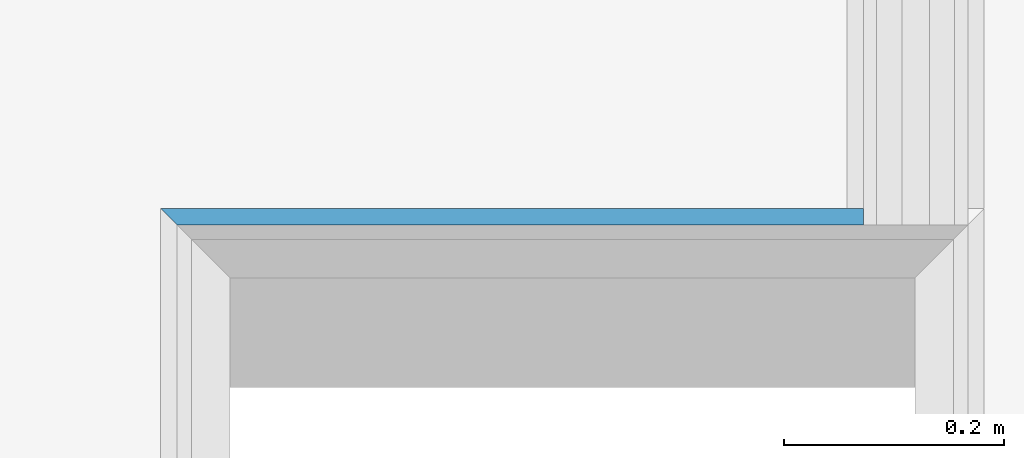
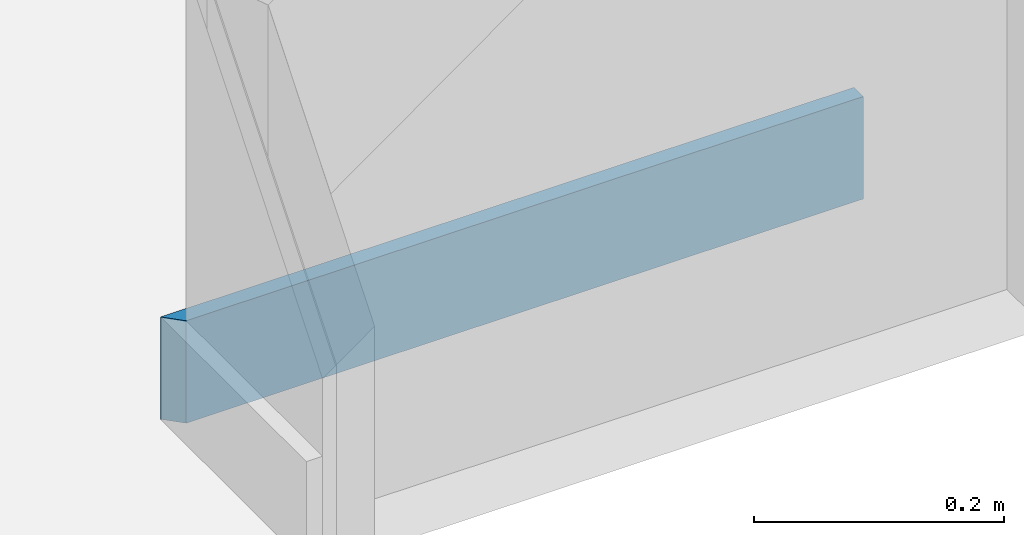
# One storey, part 6 of 82: 1 wall.
"""IFC2X3 building model written with IfcOpenShell, lengths in metres."""

from ifc_helpers import new_model, entity, si_unit, converted_unit, derived_unit, money_unit, direction, frame, origin_with_axes, place, context, subcontext, project, spatial, polyline, outline, extrude, material, layer, layer_set, layer_usage, type_object, element, save


model = new_model("IFC2X3")

# Units and contexts
model_context = context("Model", 3, precision=1e-05, world=origin_with_axes(), true_north=direction((0.0, 1.0)))
body_context = subcontext(model_context, "Body", "Model", "MODEL_VIEW", scale=1.0)
ifc_project = project(units=[si_unit("LENGTHUNIT", "METRE"), si_unit("AREAUNIT", "SQUARE_METRE"), si_unit("VOLUMEUNIT", "CUBIC_METRE"), si_unit("ABSORBEDDOSEUNIT", "GRAY"), si_unit("AMOUNTOFSUBSTANCEUNIT", "MOLE"), si_unit("DOSEEQUIVALENTUNIT", "SIEVERT"), si_unit("ELECTRICCAPACITANCEUNIT", "FARAD"), si_unit("ELECTRICCHARGEUNIT", "COULOMB"), si_unit("ELECTRICCONDUCTANCEUNIT", "SIEMENS"), si_unit("ELECTRICCURRENTUNIT", "AMPERE"), si_unit("ELECTRICRESISTANCEUNIT", "OHM"), si_unit("ELECTRICVOLTAGEUNIT", "VOLT"), si_unit("ENERGYUNIT", "JOULE"), si_unit("FORCEUNIT", "NEWTON"), si_unit("FREQUENCYUNIT", "HERTZ"), si_unit("ILLUMINANCEUNIT", "LUX"), si_unit("INDUCTANCEUNIT", "HENRY"), si_unit("LUMINOUSFLUXUNIT", "LUMEN"), si_unit("LUMINOUSINTENSITYUNIT", "CANDELA"), si_unit("MAGNETICFLUXDENSITYUNIT", "TESLA"), si_unit("MAGNETICFLUXUNIT", "WEBER"), si_unit("MASSUNIT", "GRAM"), converted_unit("PLANEANGLEUNIT", "degree", entity("IfcReal", 0.0174532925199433), si_unit("PLANEANGLEUNIT", "RADIAN"), dimensions=[0, 0, 0, 0, 0, 0, 0]), si_unit("POWERUNIT", "WATT"), si_unit("PRESSUREUNIT", "PASCAL"), si_unit("RADIOACTIVITYUNIT", "BECQUEREL"), si_unit("SOLIDANGLEUNIT", "STERADIAN"), si_unit("THERMODYNAMICTEMPERATUREUNIT", "KELVIN"), si_unit("TIMEUNIT", "SECOND"), derived_unit("ACCELERATIONUNIT", [(si_unit("LENGTHUNIT", "METRE"), 1), (si_unit("TIMEUNIT", "SECOND"), -2)]), derived_unit("ANGULARVELOCITYUNIT", [(converted_unit("PLANEANGLEUNIT", "degree", entity("IfcReal", 0.0174532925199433), si_unit("PLANEANGLEUNIT", "RADIAN"), dimensions=[0, 0, 0, 0, 0, 0, 0]), 1), (si_unit("TIMEUNIT", "SECOND"), -1)]), derived_unit("CURVATUREUNIT", [(converted_unit("PLANEANGLEUNIT", "degree", entity("IfcReal", 0.0174532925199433), si_unit("PLANEANGLEUNIT", "RADIAN"), dimensions=[0, 0, 0, 0, 0, 0, 0]), 1), (si_unit("LENGTHUNIT", "METRE"), -1)]), derived_unit("DYNAMICVISCOSITYUNIT", [(si_unit("PRESSUREUNIT", "PASCAL"), 1), (si_unit("TIMEUNIT", "SECOND"), 1)]), derived_unit("HEATFLUXDENSITYUNIT", [(si_unit("POWERUNIT", "WATT"), 1), (si_unit("LENGTHUNIT", "METRE"), -2)]), derived_unit("HEATINGVALUEUNIT", [(si_unit("ENERGYUNIT", "JOULE"), 1), (si_unit("MASSUNIT", "GRAM"), -1)]), derived_unit("INTEGERCOUNTRATEUNIT", [(si_unit("TIMEUNIT", "SECOND"), -1)]), derived_unit("IONCONCENTRATIONUNIT", [(si_unit("MASSUNIT", "GRAM"), 1), (si_unit("VOLUMEUNIT", "CUBIC_METRE"), -1)]), derived_unit("ISOTHERMALMOISTURECAPACITYUNIT", [(si_unit("VOLUMEUNIT", "CUBIC_METRE"), 1), (si_unit("MASSUNIT", "GRAM"), -1)]), derived_unit("KINEMATICVISCOSITYUNIT", [(si_unit("AREAUNIT", "SQUARE_METRE"), 1), (si_unit("TIMEUNIT", "SECOND"), -1)]), derived_unit("LINEARFORCEUNIT", [(si_unit("FORCEUNIT", "NEWTON"), 1), (si_unit("LENGTHUNIT", "METRE"), -1)]), derived_unit("LINEARMOMENTUNIT", [(si_unit("FORCEUNIT", "NEWTON"), 1), (si_unit("LENGTHUNIT", "METRE"), -1)]), derived_unit("LINEARSTIFFNESSUNIT", [(si_unit("FORCEUNIT", "NEWTON"), 1), (si_unit("LENGTHUNIT", "METRE"), -1)]), derived_unit("LINEARVELOCITYUNIT", [(si_unit("LENGTHUNIT", "METRE"), 1), (si_unit("TIMEUNIT", "SECOND"), -1)]), derived_unit("LUMINOUSINTENSITYDISTRIBUTIONUNIT", [(si_unit("LUMINOUSINTENSITYUNIT", "CANDELA"), 1), (si_unit("LUMINOUSFLUXUNIT", "LUMEN"), -1)]), derived_unit("MASSDENSITYUNIT", [(si_unit("MASSUNIT", "GRAM"), 1), (si_unit("VOLUMEUNIT", "CUBIC_METRE"), -1)]), derived_unit("MASSFLOWRATEUNIT", [(si_unit("MASSUNIT", "GRAM"), 1), (si_unit("TIMEUNIT", "SECOND"), -1)]), derived_unit("MASSPERLENGTHUNIT", [(si_unit("MASSUNIT", "GRAM"), 1), (si_unit("LENGTHUNIT", "METRE"), -1)]), derived_unit("MODULUSOFELASTICITYUNIT", [(si_unit("FORCEUNIT", "NEWTON"), 1), (si_unit("AREAUNIT", "SQUARE_METRE"), -1)]), derived_unit("MODULUSOFLINEARSUBGRADEREACTIONUNIT", [(si_unit("FORCEUNIT", "NEWTON"), 1), (si_unit("LENGTHUNIT", "METRE"), -2)]), derived_unit("MODULUSOFROTATIONALSUBGRADEREACTIONUNIT", [(si_unit("FORCEUNIT", "NEWTON"), 1), (si_unit("LENGTHUNIT", "METRE"), 1)]), derived_unit("MODULUSOFSUBGRADEREACTIONUNIT", [(si_unit("FORCEUNIT", "NEWTON"), 1), (si_unit("VOLUMEUNIT", "CUBIC_METRE"), -1)]), derived_unit("MOISTUREDIFFUSIVITYUNIT", [(si_unit("VOLUMEUNIT", "CUBIC_METRE"), 1), (si_unit("TIMEUNIT", "SECOND"), -1)]), derived_unit("MOLECULARWEIGHTUNIT", [(si_unit("MASSUNIT", "GRAM"), 1), (si_unit("AMOUNTOFSUBSTANCEUNIT", "MOLE"), -1)]), derived_unit("PLANARFORCEUNIT", [(si_unit("FORCEUNIT", "NEWTON"), 1), (si_unit("LENGTHUNIT", "METRE"), -2)]), derived_unit("ROTATIONALFREQUENCYUNIT", [(si_unit("TIMEUNIT", "SECOND"), -1)]), derived_unit("ROTATIONALMASSUNIT", [(si_unit("MASSUNIT", "GRAM"), 1), (si_unit("LENGTHUNIT", "METRE"), 2)]), derived_unit("ROTATIONALSTIFFNESSUNIT", [(si_unit("FORCEUNIT", "NEWTON"), 1), (si_unit("LENGTHUNIT", "METRE"), 1), (converted_unit("PLANEANGLEUNIT", "degree", entity("IfcReal", 0.0174532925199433), si_unit("PLANEANGLEUNIT", "RADIAN"), dimensions=[0, 0, 0, 0, 0, 0, 0]), -1)]), derived_unit("SECTIONAREAINTEGRALUNIT", [(si_unit("LENGTHUNIT", "METRE"), 5)]), derived_unit("SECTIONMODULUSUNIT", [(si_unit("LENGTHUNIT", "METRE"), 3)]), derived_unit("SHEARMODULUSUNIT", [(si_unit("FORCEUNIT", "NEWTON"), 1), (si_unit("AREAUNIT", "SQUARE_METRE"), -1)]), derived_unit("SOUNDPOWERUNIT", [(si_unit("ENERGYUNIT", "JOULE"), 1), (si_unit("TIMEUNIT", "SECOND"), -1)]), derived_unit("SPECIFICHEATCAPACITYUNIT", [(si_unit("FORCEUNIT", "NEWTON"), 1), (si_unit("MASSUNIT", "GRAM"), -1), (si_unit("THERMODYNAMICTEMPERATUREUNIT", "KELVIN"), -1)]), derived_unit("TEMPERATUREGRADIENTUNIT", [(si_unit("THERMODYNAMICTEMPERATUREUNIT", "KELVIN"), 1), (si_unit("LENGTHUNIT", "METRE"), -1)]), derived_unit("THERMALADMITTANCEUNIT", [(si_unit("POWERUNIT", "WATT"), 1), (si_unit("AREAUNIT", "SQUARE_METRE"), -1), (si_unit("THERMODYNAMICTEMPERATUREUNIT", "KELVIN"), -1)]), derived_unit("THERMALCONDUCTANCEUNIT", [(si_unit("POWERUNIT", "WATT"), 1), (si_unit("LENGTHUNIT", "METRE"), -1), (si_unit("THERMODYNAMICTEMPERATUREUNIT", "KELVIN"), -1)]), derived_unit("THERMALEXPANSIONCOEFFICIENTUNIT", [(si_unit("THERMODYNAMICTEMPERATUREUNIT", "KELVIN"), -1)]), derived_unit("THERMALRESISTANCEUNIT", [(si_unit("AREAUNIT", "SQUARE_METRE"), 1), (si_unit("POWERUNIT", "WATT"), -1)]), derived_unit("THERMALTRANSMITTANCEUNIT", [(si_unit("POWERUNIT", "WATT"), 1), (si_unit("AREAUNIT", "SQUARE_METRE"), -1), (si_unit("THERMODYNAMICTEMPERATUREUNIT", "KELVIN"), -1)]), derived_unit("TORQUEUNIT", [(si_unit("FORCEUNIT", "NEWTON"), 1), (si_unit("LENGTHUNIT", "METRE"), 1)]), derived_unit("VAPORPERMEABILITYUNIT", [(si_unit("MASSUNIT", "GRAM"), 1), (si_unit("TIMEUNIT", "SECOND"), -1)]), derived_unit("VOLUMETRICFLOWRATEUNIT", [(si_unit("VOLUMEUNIT", "CUBIC_METRE"), 1), (si_unit("TIMEUNIT", "SECOND"), -1)]), derived_unit("WARPINGCONSTANTUNIT", [(si_unit("LENGTHUNIT", "METRE"), 6)]), derived_unit("WARPINGMOMENTUNIT", [(si_unit("FORCEUNIT", "NEWTON"), 1), (si_unit("LENGTHUNIT", "METRE"), 2)]), money_unit("GBP")], contexts=[model_context])

# Site, building, storey
site_placement = place(None, origin_with_axes())
site = spatial("IfcSite", under=ifc_project, at=site_placement, Name="Site", CompositionType="ELEMENT")
building_placement = place(site_placement, origin_with_axes())
building = spatial("IfcBuilding", under=site, at=building_placement, Name="Building01", CompositionType="ELEMENT")
storey_placement = place(building_placement, frame((0.0, 0.0, 12.13), z_axis=(0.0, 0.0, 1.0), x_axis=(1.0, 0.0, 0.0)))
storey = spatial("IfcBuildingStorey", under=building, at=storey_placement, Name="3F", CompositionType="ELEMENT", Elevation=12.13)

# Wall
ifc_material = material(Name="A_BSUK_Walls_Timber")
ifc_layer = layer(ifc_material, 0.015, ventilated=False)
ifc_layer_set = layer_set([ifc_layer])
ifc_layer_usage = layer_usage(ifc_layer_set, "AXIS2", "POSITIVE", 0.0)
wall_type = type_object("IfcWallType", Name="default", PredefinedType="NOTDEFINED")
wall_placement = place(storey_placement, frame((6.575, 0.318, 0.015), z_axis=(0.0, 0.0, 1.0), x_axis=(1.0, 0.0, 0.0)))
element("IfcWallStandardCase", 1, at=wall_placement, inside=storey, type_object=wall_type, material=ifc_layer_usage, Name="default", ObjectType="default", context=body_context, shape_type="SweptSolid", body=[
    extrude(outline(polyline([(0.625, 0.015), (-0.015, 0.015), (0.0, 0.0), (0.625, 0.0), (0.625, 0.015)])), origin_with_axes(), (0.0, 0.0, 1.0), 0.1),
])

save(model, "model.ifc")
